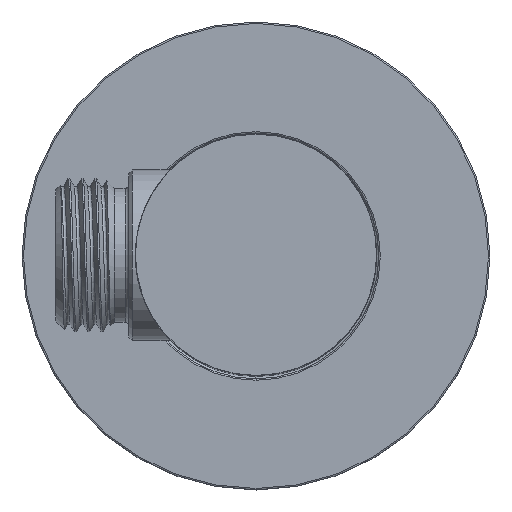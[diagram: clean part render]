
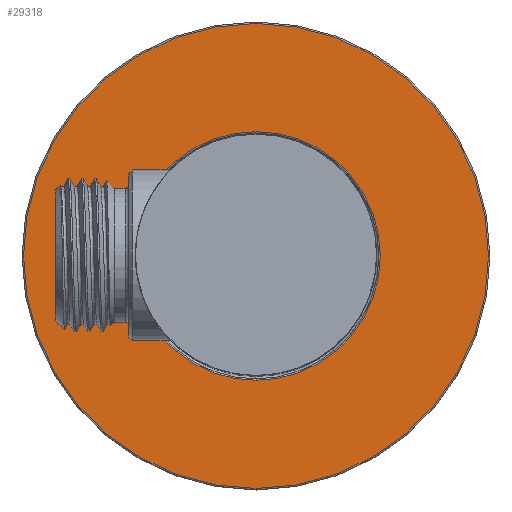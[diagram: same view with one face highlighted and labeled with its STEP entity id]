
A CAD part, top view. The second image highlights one B-rep face of the part: STEP entity #29318.
In plain terms, the highlighted planar face has unit normal (0, 0, 1) as drawn and (0, 1, 0) by its records, which use the part's own axes.
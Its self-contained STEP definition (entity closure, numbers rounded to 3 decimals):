
#28881=CARTESIAN_POINT('',(0.,5.,0.));
#28882=DIRECTION('',(0.,-1.,0.));
#28883=DIRECTION('',(0.,0.,1.));
#28884=AXIS2_PLACEMENT_3D('',#28881,#28882,#28883);
#28886=CARTESIAN_POINT('',(0.,5.,0.));
#28887=DIRECTION('',(0.,-1.,0.));
#28888=DIRECTION('',(0.,0.,-1.));
#28889=AXIS2_PLACEMENT_3D('',#28886,#28887,#28888);
#28891=CARTESIAN_POINT('',(0.,5.,0.));
#28892=DIRECTION('',(0.,-1.,0.));
#28893=DIRECTION('',(0.,0.,1.));
#28894=AXIS2_PLACEMENT_3D('',#28891,#28892,#28893);
#28896=CARTESIAN_POINT('',(0.,5.,0.));
#28897=DIRECTION('',(0.,-1.,0.));
#28898=DIRECTION('',(0.,0.,-1.));
#28899=AXIS2_PLACEMENT_3D('',#28896,#28897,#28898);
#29253=CARTESIAN_POINT('',(0.,5.,31.8));
#29254=CARTESIAN_POINT('',(0.,5.,-31.8));
#29255=VERTEX_POINT('',#29253);
#29256=VERTEX_POINT('',#29254);
#29257=CARTESIAN_POINT('',(0.,5.,17.));
#29258=CARTESIAN_POINT('',(0.,5.,-17.));
#29259=VERTEX_POINT('',#29257);
#29260=VERTEX_POINT('',#29258);
#29301=CARTESIAN_POINT('',(0.,5.,0.));
#29302=DIRECTION('',(0.,1.,0.));
#29303=DIRECTION('',(0.,0.,-1.));
#29304=AXIS2_PLACEMENT_3D('',#29301,#29302,#29303);
#29305=PLANE('',#29304);
#29307=ORIENTED_EDGE('',*,*,#29306,.T.);
#29309=ORIENTED_EDGE('',*,*,#29308,.T.);
#29310=EDGE_LOOP('',(#29307,#29309));
#29311=FACE_OUTER_BOUND('',#29310,.F.);
#29313=ORIENTED_EDGE('',*,*,#29312,.F.);
#29315=ORIENTED_EDGE('',*,*,#29314,.F.);
#29316=EDGE_LOOP('',(#29313,#29315));
#29317=FACE_BOUND('',#29316,.F.);
#29318=ADVANCED_FACE('',(#29311,#29317),#29305,.T.);
#28885=CIRCLE('',#28884,31.8);
#28890=CIRCLE('',#28889,31.8);
#28895=CIRCLE('',#28894,17.);
#28900=CIRCLE('',#28899,17.);
#29306=EDGE_CURVE('',#29255,#29256,#28885,.T.);
#29308=EDGE_CURVE('',#29256,#29255,#28890,.T.);
#29312=EDGE_CURVE('',#29259,#29260,#28895,.T.);
#29314=EDGE_CURVE('',#29260,#29259,#28900,.T.);
